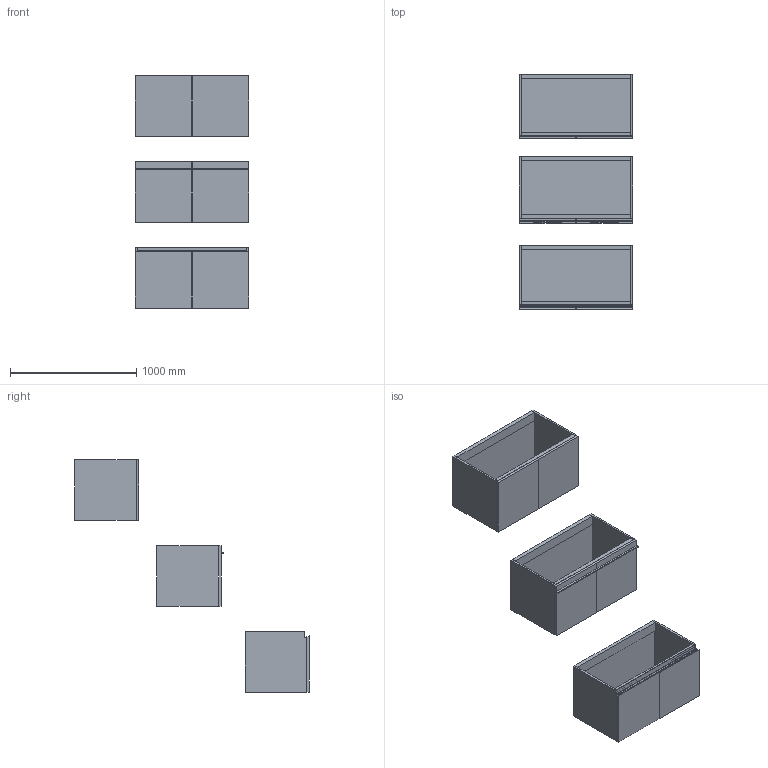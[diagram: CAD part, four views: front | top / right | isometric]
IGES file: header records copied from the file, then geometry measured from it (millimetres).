
Start section: Data from Parasolid IGES Translator 19.0.9, Copyright(c) 2006 Siemens PL M Software. All Rights Reserved.
Global section: file name: noorth-SI-H 48 D 51 W 90_8561.igs; native system: By Siemens PLM Incorporated; preprocessor: XPlus GENERIC/IGES 19.0.9; author: Noname; organization: Noname; date: 20200601.113621; units: metre
Bounding box: 900 x 1857.1 x 1840.01 mm (x, y, z)
Volume: 77572746.9 mm3; surface area: 11701030.8 mm2
Topology: 27 solids, 27 shells, 264 faces, 566 edges, 336 vertices
Faces by surface type: plane 180, extrusion 32, bspline 32, cylinder 20
